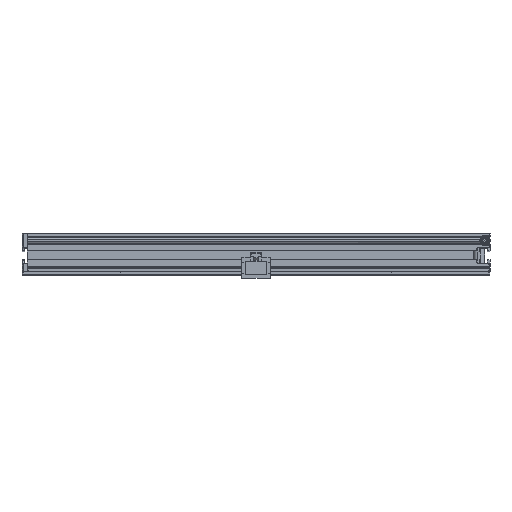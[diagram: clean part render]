
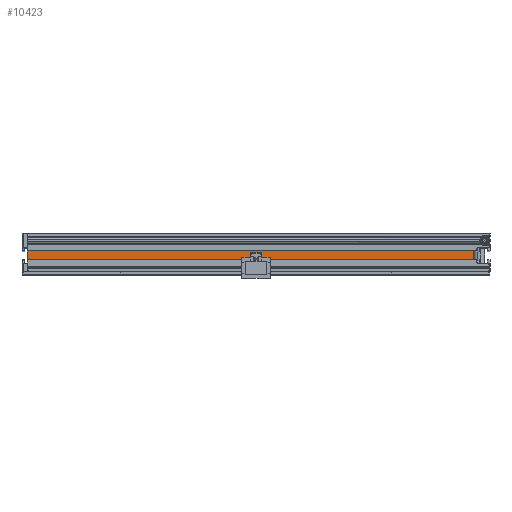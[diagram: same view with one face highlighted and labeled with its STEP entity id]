
A CAD part, top view. The second image highlights one B-rep face of the part: STEP entity #10423.
In plain terms, the highlighted planar face has unit normal (0, 0, 1).
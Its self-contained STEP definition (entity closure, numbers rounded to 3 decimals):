
#693 = ORIENTED_EDGE ( 'NONE', *, *, #31567, .F. ) ;
#1128 = AXIS2_PLACEMENT_3D ( 'NONE', #30960, #11154, #14611 ) ;
#1233 = CARTESIAN_POINT ( 'NONE',  ( -86.5, 8.65, 82. ) ) ;
#1291 = LINE ( 'NONE', #1233, #26017 ) ;
#2503 = VERTEX_POINT ( 'NONE', #4213 ) ;
#3694 = CARTESIAN_POINT ( 'NONE',  ( 80.5, 5.35, 82. ) ) ;
#4213 = CARTESIAN_POINT ( 'NONE',  ( 80.5, 8.65, 82. ) ) ;
#4540 = ORIENTED_EDGE ( 'NONE', *, *, #41052, .T. ) ;
#8560 = PLANE ( 'NONE',  #1128 ) ;
#10423 = ADVANCED_FACE ( 'NONE', ( #42059 ), #8560, .F. ) ;
#10625 = LINE ( 'NONE', #3694, #15801 ) ;
#11154 = DIRECTION ( 'NONE',  ( 0., 0., -1. ) ) ;
#11679 = ORIENTED_EDGE ( 'NONE', *, *, #26493, .F. ) ;
#12115 = DIRECTION ( 'NONE',  ( 0., 1., 0. ) ) ;
#12367 = VECTOR ( 'NONE', #24963, 1000. ) ;
#12654 = CARTESIAN_POINT ( 'NONE',  ( 80.5, 5.35, 82. ) ) ;
#12791 = VERTEX_POINT ( 'NONE', #33408 ) ;
#14611 = DIRECTION ( 'NONE',  ( -1., 0., 0. ) ) ;
#15801 = VECTOR ( 'NONE', #26673, 1000. ) ;
#18006 = LINE ( 'NONE', #38586, #12367 ) ;
#18036 = EDGE_CURVE ( 'NONE', #41070, #21327, #18006, .T. ) ;
#21327 = VERTEX_POINT ( 'NONE', #12654 ) ;
#23765 = LINE ( 'NONE', #28205, #39182 ) ;
#24963 = DIRECTION ( 'NONE',  ( 1., 0., 0. ) ) ;
#26017 = VECTOR ( 'NONE', #34827, 1000. ) ;
#26493 = EDGE_CURVE ( 'NONE', #41070, #12791, #23765, .T. ) ;
#26673 = DIRECTION ( 'NONE',  ( 0., 1., 0. ) ) ;
#28205 = CARTESIAN_POINT ( 'NONE',  ( -84.5, 1., 82. ) ) ;
#30960 = CARTESIAN_POINT ( 'NONE',  ( -86.5, 5.35, 82. ) ) ;
#31567 = EDGE_CURVE ( 'NONE', #12791, #2503, #1291, .T. ) ;
#33166 = EDGE_LOOP ( 'NONE', ( #37307, #4540, #693, #11679 ) ) ;
#33408 = CARTESIAN_POINT ( 'NONE',  ( -84.5, 8.65, 82. ) ) ;
#34827 = DIRECTION ( 'NONE',  ( 1., 0., 0. ) ) ;
#37307 = ORIENTED_EDGE ( 'NONE', *, *, #18036, .T. ) ;
#38586 = CARTESIAN_POINT ( 'NONE',  ( -86.5, 5.35, 82. ) ) ;
#39182 = VECTOR ( 'NONE', #12115, 1000. ) ;
#40272 = CARTESIAN_POINT ( 'NONE',  ( -84.5, 5.35, 82. ) ) ;
#41052 = EDGE_CURVE ( 'NONE', #21327, #2503, #10625, .T. ) ;
#41070 = VERTEX_POINT ( 'NONE', #40272 ) ;
#42059 = FACE_OUTER_BOUND ( 'NONE', #33166, .T. ) ;
